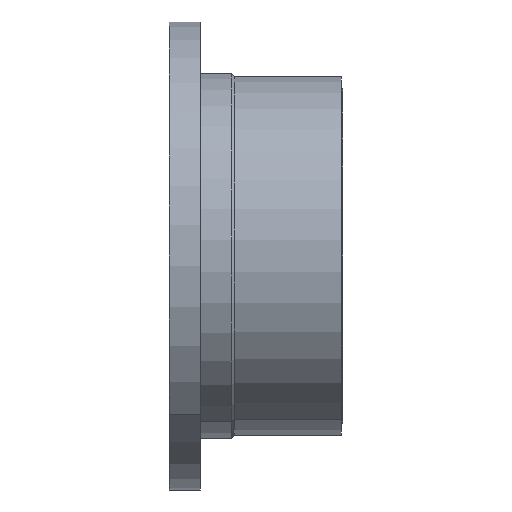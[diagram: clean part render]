
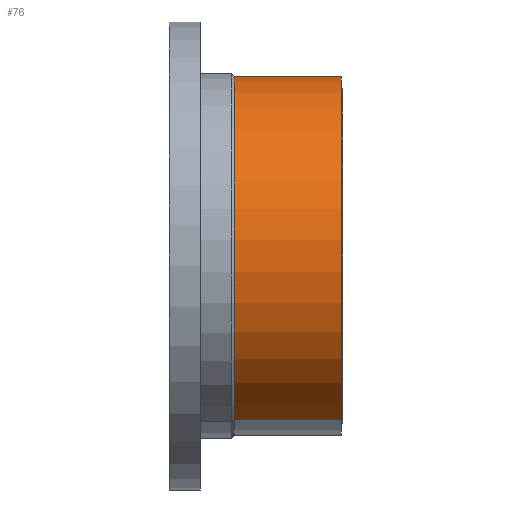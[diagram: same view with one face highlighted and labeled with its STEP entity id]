
A CAD part, left-side view. The second image highlights one B-rep face of the part: STEP entity #76.
In plain terms, the highlighted cylindrical face has radius 58 mm (diameter 116 mm), a partial arc.
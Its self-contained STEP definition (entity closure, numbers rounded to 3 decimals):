
#18 = DIRECTION ( 'NONE',  ( 0.423, 0., 0.906 ) ) ;
#76 = ADVANCED_FACE ( 'NONE', ( #4750 ), #1385, .T. ) ;
#315 = CIRCLE ( 'NONE', #5393, 58. ) ;
#575 = EDGE_CURVE ( 'NONE', #3208, #7953, #828, .T. ) ;
#828 = LINE ( 'NONE', #7144, #4707 ) ;
#1025 = LINE ( 'NONE', #8606, #6197 ) ;
#1291 = DIRECTION ( 'NONE',  ( 0., -1., 0. ) ) ;
#1385 = CYLINDRICAL_SURFACE ( 'NONE', #2848, 58. ) ;
#1865 = CARTESIAN_POINT ( 'NONE',  ( -24.512, -36.5, -52.566 ) ) ;
#1965 = CARTESIAN_POINT ( 'NONE',  ( 0., 15.066, 0. ) ) ;
#1981 = ORIENTED_EDGE ( 'NONE', *, *, #5811, .T. ) ;
#2006 = CARTESIAN_POINT ( 'NONE',  ( 0., -2., 0. ) ) ;
#2561 = CIRCLE ( 'NONE', #2865, 58. ) ;
#2848 = AXIS2_PLACEMENT_3D ( 'NONE', #1965, #7515, #5568 ) ;
#2865 = AXIS2_PLACEMENT_3D ( 'NONE', #8841, #6807, #4899 ) ;
#3208 = VERTEX_POINT ( 'NONE', #1865 ) ;
#3209 = ORIENTED_EDGE ( 'NONE', *, *, #3864, .T. ) ;
#3643 = EDGE_LOOP ( 'NONE', ( #6965, #3209, #1981, #4004 ) ) ;
#3666 = EDGE_CURVE ( 'NONE', #3208, #7943, #2561, .T. ) ;
#3864 = EDGE_CURVE ( 'NONE', #7943, #8260, #1025, .T. ) ;
#4004 = ORIENTED_EDGE ( 'NONE', *, *, #575, .F. ) ;
#4707 = VECTOR ( 'NONE', #4967, 1000. ) ;
#4750 = FACE_OUTER_BOUND ( 'NONE', #3643, .T. ) ;
#4899 = DIRECTION ( 'NONE',  ( -0.423, 0., -0.906 ) ) ;
#4967 = DIRECTION ( 'NONE',  ( 0., 1., 0. ) ) ;
#5393 = AXIS2_PLACEMENT_3D ( 'NONE', #2006, #1291, #18 ) ;
#5568 = DIRECTION ( 'NONE',  ( -0.423, 0., -0.906 ) ) ;
#5658 = CARTESIAN_POINT ( 'NONE',  ( 24.512, -2., 52.566 ) ) ;
#5811 = EDGE_CURVE ( 'NONE', #8260, #7953, #315, .T. ) ;
#6197 = VECTOR ( 'NONE', #8691, 1000. ) ;
#6434 = CARTESIAN_POINT ( 'NONE',  ( 24.512, -36.5, 52.566 ) ) ;
#6807 = DIRECTION ( 'NONE',  ( 0., 1., 0. ) ) ;
#6965 = ORIENTED_EDGE ( 'NONE', *, *, #3666, .T. ) ;
#7024 = CARTESIAN_POINT ( 'NONE',  ( -24.512, -2., -52.566 ) ) ;
#7144 = CARTESIAN_POINT ( 'NONE',  ( -24.512, 15.066, -52.566 ) ) ;
#7515 = DIRECTION ( 'NONE',  ( 0., 1., 0. ) ) ;
#7943 = VERTEX_POINT ( 'NONE', #6434 ) ;
#7953 = VERTEX_POINT ( 'NONE', #7024 ) ;
#8260 = VERTEX_POINT ( 'NONE', #5658 ) ;
#8606 = CARTESIAN_POINT ( 'NONE',  ( 24.512, 15.066, 52.566 ) ) ;
#8691 = DIRECTION ( 'NONE',  ( 0., 1., 0. ) ) ;
#8841 = CARTESIAN_POINT ( 'NONE',  ( 0., -36.5, 0. ) ) ;
